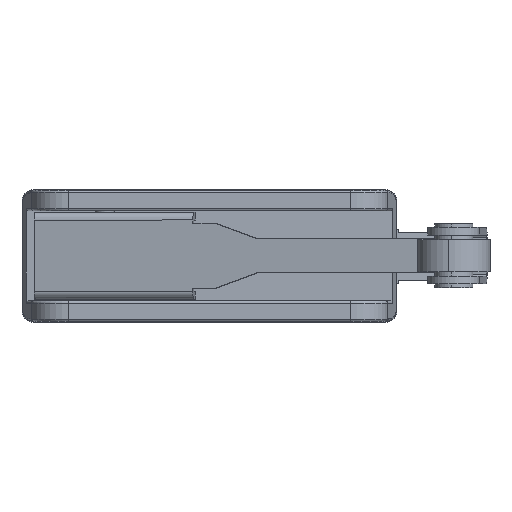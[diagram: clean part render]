
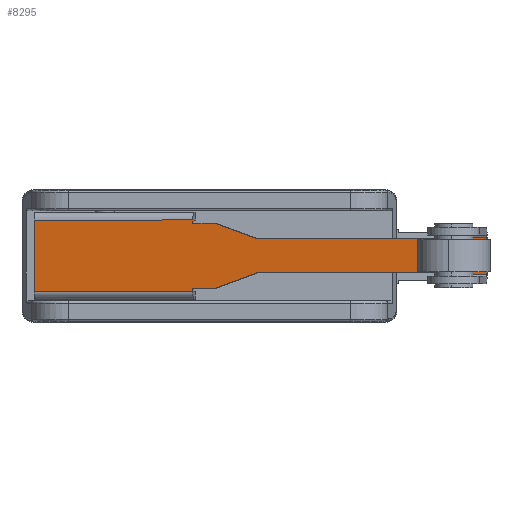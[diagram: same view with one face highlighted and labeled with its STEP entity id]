
A CAD part, top view. The second image highlights one B-rep face of the part: STEP entity #8295.
In plain terms, the highlighted planar face has unit normal (-0.141, 0, 0.99) as drawn and (0, 0, -1) by its records, which use the part's own axes.
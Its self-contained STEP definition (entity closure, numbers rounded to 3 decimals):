
#11 = LINE ( 'NONE', #9073, #9136 ) ;
#101 = CARTESIAN_POINT ( 'NONE',  ( -2.25, 53.1, 0. ) ) ;
#241 = VERTEX_POINT ( 'NONE', #14479 ) ;
#439 = DIRECTION ( 'NONE',  ( 0., 0., 1. ) ) ;
#455 = ORIENTED_EDGE ( 'NONE', *, *, #3618, .F. ) ;
#540 = LINE ( 'NONE', #13041, #7234 ) ;
#677 = VECTOR ( 'NONE', #13049, 1000. ) ;
#1372 = LINE ( 'NONE', #8587, #13350 ) ;
#1640 = CARTESIAN_POINT ( 'NONE',  ( 2.25, 29.5, 0. ) ) ;
#1678 = VERTEX_POINT ( 'NONE', #10584 ) ;
#1833 = DIRECTION ( 'NONE',  ( -1., 0., 0. ) ) ;
#1908 = CARTESIAN_POINT ( 'NONE',  ( 2.25, 29.5, 0. ) ) ;
#2122 = EDGE_CURVE ( 'NONE', #10120, #2680, #10469, .T. ) ;
#2182 = EDGE_CURVE ( 'NONE', #241, #8365, #12908, .T. ) ;
#2293 = CARTESIAN_POINT ( 'NONE',  ( 4.25, 24.005, 0. ) ) ;
#2441 = FACE_OUTER_BOUND ( 'NONE', #15404, .T. ) ;
#2445 = ORIENTED_EDGE ( 'NONE', *, *, #2122, .F. ) ;
#2680 = VERTEX_POINT ( 'NONE', #15016 ) ;
#2798 = VECTOR ( 'NONE', #14102, 1000. ) ;
#2807 = EDGE_CURVE ( 'NONE', #12126, #13201, #5952, .T. ) ;
#2831 = ORIENTED_EDGE ( 'NONE', *, *, #9004, .T. ) ;
#2899 = ORIENTED_EDGE ( 'NONE', *, *, #12044, .T. ) ;
#3108 = CARTESIAN_POINT ( 'NONE',  ( 4.7, 21., 0. ) ) ;
#3263 = EDGE_CURVE ( 'NONE', #9543, #15041, #13855, .T. ) ;
#3428 = EDGE_CURVE ( 'NONE', #11235, #12580, #14785, .T. ) ;
#3502 = CARTESIAN_POINT ( 'NONE',  ( -4.7, 21., 0. ) ) ;
#3618 = EDGE_CURVE ( 'NONE', #15063, #12126, #4061, .T. ) ;
#3682 = VECTOR ( 'NONE', #13411, 1000. ) ;
#3789 = VECTOR ( 'NONE', #14214, 1000. ) ;
#3861 = VECTOR ( 'NONE', #5153, 1000. ) ;
#3900 = CARTESIAN_POINT ( 'NONE',  ( -4.7, 0., 0. ) ) ;
#3951 = CARTESIAN_POINT ( 'NONE',  ( 0., 0., 0. ) ) ;
#4061 = LINE ( 'NONE', #6425, #3682 ) ;
#4112 = CARTESIAN_POINT ( 'NONE',  ( 2.25, 53.1, 0. ) ) ;
#4522 = DIRECTION ( 'NONE',  ( 0., 1., 0. ) ) ;
#4626 = CARTESIAN_POINT ( 'NONE',  ( 2.25, 53.1, 0. ) ) ;
#4895 = VERTEX_POINT ( 'NONE', #2293 ) ;
#5153 = DIRECTION ( 'NONE',  ( 1., 0., 0. ) ) ;
#5342 = EDGE_CURVE ( 'NONE', #4895, #9249, #9040, .T. ) ;
#5461 = VERTEX_POINT ( 'NONE', #8656 ) ;
#5503 = DIRECTION ( 'NONE',  ( 0., 1., 0. ) ) ;
#5525 = VECTOR ( 'NONE', #11633, 1000. ) ;
#5802 = CARTESIAN_POINT ( 'NONE',  ( 4.25, 21., 0. ) ) ;
#5824 = DIRECTION ( 'NONE',  ( -1., 0., 0. ) ) ;
#5852 = DIRECTION ( 'NONE',  ( -1., 0., 0. ) ) ;
#5904 = EDGE_CURVE ( 'NONE', #13201, #1678, #1372, .T. ) ;
#5914 = AXIS2_PLACEMENT_3D ( 'NONE', #3951, #439, #8751 ) ;
#5952 = LINE ( 'NONE', #14197, #15197 ) ;
#6092 = VECTOR ( 'NONE', #4522, 1000. ) ;
#6149 = ORIENTED_EDGE ( 'NONE', *, *, #10256, .T. ) ;
#6318 = ORIENTED_EDGE ( 'NONE', *, *, #7013, .F. ) ;
#6425 = CARTESIAN_POINT ( 'NONE',  ( -2.25, 29.5, 0. ) ) ;
#6455 = CARTESIAN_POINT ( 'NONE',  ( 4.25, 21., 0. ) ) ;
#6691 = CARTESIAN_POINT ( 'NONE',  ( -4.7, 0., 0. ) ) ;
#7013 = EDGE_CURVE ( 'NONE', #5461, #15041, #540, .T. ) ;
#7113 = DIRECTION ( 'NONE',  ( 0., 1., 0. ) ) ;
#7165 = CARTESIAN_POINT ( 'NONE',  ( -2.4, 59.9, 0. ) ) ;
#7234 = VECTOR ( 'NONE', #5852, 1000. ) ;
#7258 = VECTOR ( 'NONE', #13939, 1000. ) ;
#7444 = ORIENTED_EDGE ( 'NONE', *, *, #3263, .T. ) ;
#7563 = PLANE ( 'NONE',  #5914 ) ;
#7867 = DIRECTION ( 'NONE',  ( 0.342, -0.94, 0. ) ) ;
#8172 = DIRECTION ( 'NONE',  ( -0.342, -0.94, 0. ) ) ;
#8203 = ORIENTED_EDGE ( 'NONE', *, *, #3428, .T. ) ;
#8211 = CARTESIAN_POINT ( 'NONE',  ( -2.4, 53.1, 0. ) ) ;
#8295 = ADVANCED_FACE ( 'NONE', ( #2441 ), #7563, .F. ) ;
#8362 = VECTOR ( 'NONE', #7113, 1000. ) ;
#8365 = VERTEX_POINT ( 'NONE', #4112 ) ;
#8587 = CARTESIAN_POINT ( 'NONE',  ( -4.25, 21., 0. ) ) ;
#8656 = CARTESIAN_POINT ( 'NONE',  ( 2.4, 59.9, 0. ) ) ;
#8751 = DIRECTION ( 'NONE',  ( 1., 0., 0. ) ) ;
#9004 = EDGE_CURVE ( 'NONE', #9249, #2680, #9172, .T. ) ;
#9033 = ORIENTED_EDGE ( 'NONE', *, *, #5904, .F. ) ;
#9040 = LINE ( 'NONE', #5802, #3789 ) ;
#9073 = CARTESIAN_POINT ( 'NONE',  ( 4.25, 24.005, 0. ) ) ;
#9136 = VECTOR ( 'NONE', #7867, 1000. ) ;
#9172 = LINE ( 'NONE', #10402, #2798 ) ;
#9249 = VERTEX_POINT ( 'NONE', #6455 ) ;
#9274 = CARTESIAN_POINT ( 'NONE',  ( 2.4, 59.9, 0. ) ) ;
#9280 = LINE ( 'NONE', #9274, #6092 ) ;
#9413 = CARTESIAN_POINT ( 'NONE',  ( -2.25, 29.5, 0. ) ) ;
#9543 = VERTEX_POINT ( 'NONE', #8211 ) ;
#9586 = CARTESIAN_POINT ( 'NONE',  ( -4.7, 21., 0. ) ) ;
#9696 = VECTOR ( 'NONE', #5824, 1000. ) ;
#9811 = DIRECTION ( 'NONE',  ( 0., -1., 0. ) ) ;
#9989 = CARTESIAN_POINT ( 'NONE',  ( 4.7, 0., 0. ) ) ;
#10120 = VERTEX_POINT ( 'NONE', #9989 ) ;
#10193 = CARTESIAN_POINT ( 'NONE',  ( -4.7, 21., 0. ) ) ;
#10202 = LINE ( 'NONE', #14384, #677 ) ;
#10215 = EDGE_CURVE ( 'NONE', #1678, #12580, #10278, .T. ) ;
#10256 = EDGE_CURVE ( 'NONE', #11078, #4895, #11, .T. ) ;
#10278 = LINE ( 'NONE', #10193, #13090 ) ;
#10338 = ORIENTED_EDGE ( 'NONE', *, *, #5342, .T. ) ;
#10402 = CARTESIAN_POINT ( 'NONE',  ( 4.7, 21., 0. ) ) ;
#10469 = LINE ( 'NONE', #3108, #7258 ) ;
#10534 = ORIENTED_EDGE ( 'NONE', *, *, #11664, .F. ) ;
#10584 = CARTESIAN_POINT ( 'NONE',  ( -4.25, 21., 0. ) ) ;
#11078 = VERTEX_POINT ( 'NONE', #1640 ) ;
#11235 = VERTEX_POINT ( 'NONE', #6691 ) ;
#11633 = DIRECTION ( 'NONE',  ( 0., -1., 0. ) ) ;
#11664 = EDGE_CURVE ( 'NONE', #241, #5461, #9280, .T. ) ;
#11836 = ORIENTED_EDGE ( 'NONE', *, *, #13149, .F. ) ;
#12044 = EDGE_CURVE ( 'NONE', #8365, #11078, #12283, .T. ) ;
#12126 = VERTEX_POINT ( 'NONE', #9413 ) ;
#12283 = LINE ( 'NONE', #1908, #5525 ) ;
#12580 = VERTEX_POINT ( 'NONE', #9586 ) ;
#12908 = LINE ( 'NONE', #4626, #9696 ) ;
#13041 = CARTESIAN_POINT ( 'NONE',  ( 0., 59.9, 0. ) ) ;
#13049 = DIRECTION ( 'NONE',  ( 1., 0., 0. ) ) ;
#13090 = VECTOR ( 'NONE', #1833, 1000. ) ;
#13111 = ORIENTED_EDGE ( 'NONE', *, *, #10215, .F. ) ;
#13149 = EDGE_CURVE ( 'NONE', #11235, #10120, #13834, .T. ) ;
#13201 = VERTEX_POINT ( 'NONE', #14837 ) ;
#13350 = VECTOR ( 'NONE', #9811, 1000. ) ;
#13411 = DIRECTION ( 'NONE',  ( 0., -1., 0. ) ) ;
#13459 = VECTOR ( 'NONE', #5503, 1000. ) ;
#13834 = LINE ( 'NONE', #3900, #3861 ) ;
#13855 = LINE ( 'NONE', #13921, #13459 ) ;
#13921 = CARTESIAN_POINT ( 'NONE',  ( -2.4, 59.9, 0. ) ) ;
#13939 = DIRECTION ( 'NONE',  ( 0., 1., 0. ) ) ;
#13943 = ORIENTED_EDGE ( 'NONE', *, *, #2807, .F. ) ;
#14102 = DIRECTION ( 'NONE',  ( 1., 0., 0. ) ) ;
#14197 = CARTESIAN_POINT ( 'NONE',  ( -4.25, 24.005, 0. ) ) ;
#14214 = DIRECTION ( 'NONE',  ( 0., -1., 0. ) ) ;
#14314 = ORIENTED_EDGE ( 'NONE', *, *, #15035, .F. ) ;
#14384 = CARTESIAN_POINT ( 'NONE',  ( -2.25, 53.1, 0. ) ) ;
#14479 = CARTESIAN_POINT ( 'NONE',  ( 2.4, 53.1, 0. ) ) ;
#14785 = LINE ( 'NONE', #3502, #8362 ) ;
#14837 = CARTESIAN_POINT ( 'NONE',  ( -4.25, 24.005, 0. ) ) ;
#15016 = CARTESIAN_POINT ( 'NONE',  ( 4.7, 21., 0. ) ) ;
#15035 = EDGE_CURVE ( 'NONE', #9543, #15063, #10202, .T. ) ;
#15041 = VERTEX_POINT ( 'NONE', #7165 ) ;
#15063 = VERTEX_POINT ( 'NONE', #101 ) ;
#15197 = VECTOR ( 'NONE', #8172, 1000. ) ;
#15404 = EDGE_LOOP ( 'NONE', ( #11836, #8203, #13111, #9033, #13943, #455, #14314, #7444, #6318, #10534, #15430, #2899, #6149, #10338, #2831, #2445 ) ) ;
#15430 = ORIENTED_EDGE ( 'NONE', *, *, #2182, .T. ) ;
